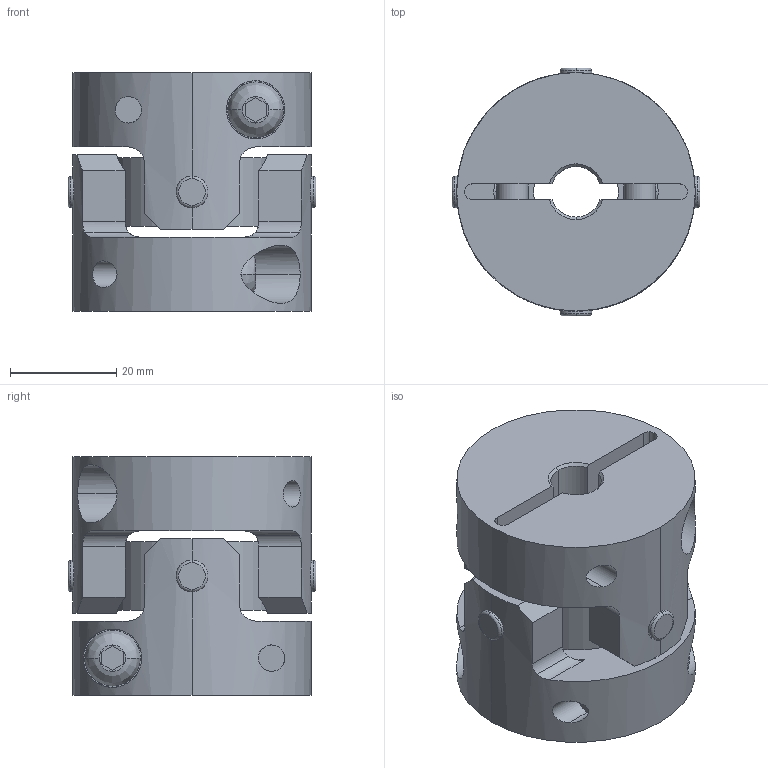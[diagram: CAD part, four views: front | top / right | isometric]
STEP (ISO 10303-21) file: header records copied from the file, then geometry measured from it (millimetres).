
FILE_DESCRIPTION((''),'2;1');
FILE_NAME('UA-45C-9.525×20.stp','2013-11-19T08:43:01',(''),(''),'AutoCAD STEP 2000i','AutoCAD 2000i',', , ');
FILE_SCHEMA(('CONFIG_CONTROL_DESIGN'));
Length unit declared in the file: millimetre
Products named in the file (7): UA-45C-8×17; 忣兜1; UA-4502-D17; BTN-M6; UA-4502-D08-1; UA-4502-D08; UA45-SEN
Assembly tree (8 placements, depth 3):
  UA-45C-8×17
    忣兜1
    UA-4502-D17
      BTN-M6
    UA-4502-D08-1
      BTN-M6
    UA-4502-D08
      BTN-M6
    UA45-SEN
Bounding box: 46.73 x 46.73 x 45 mm (x, y, z)
Volume: 48820.4 mm3; surface area: 19757.7 mm2
Topology: 1 solids, 1 shells, 206 faces, 554 edges, 364 vertices
Faces by surface type: cylinder 96, plane 78, cone 16, bspline 8, torus 8
Entity records: 8537 total; most frequent: CARTESIAN_POINT 3201, ORIENTED_EDGE 1108, DIRECTION 1068, EDGE_CURVE 554, AXIS2_PLACEMENT_3D 411, VERTEX_POINT 364, VECTOR 246, LINE 246
